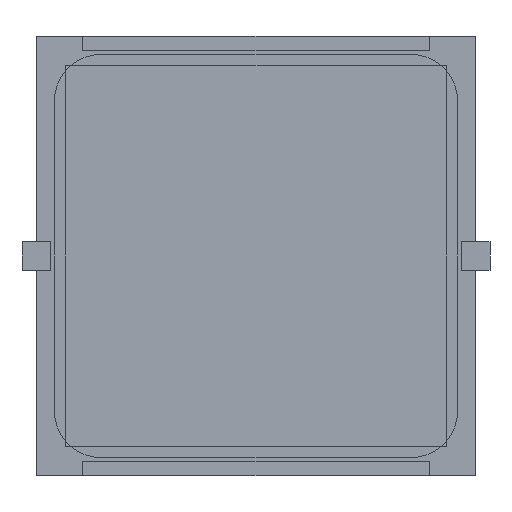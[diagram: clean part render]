
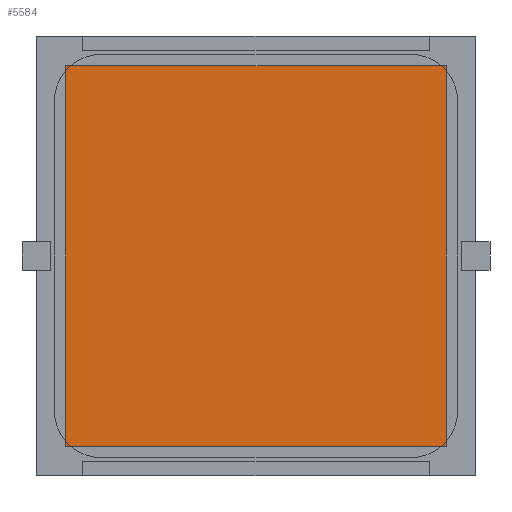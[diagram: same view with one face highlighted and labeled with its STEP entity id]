
A CAD part, front view. The second image highlights one B-rep face of the part: STEP entity #5584.
In plain terms, the highlighted planar face has unit normal (0, -1, 0).
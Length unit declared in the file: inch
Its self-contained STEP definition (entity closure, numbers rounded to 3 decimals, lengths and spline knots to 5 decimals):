
#35 = DIRECTION ( 'NONE',  ( 1., 0., 0. ) ) ;
#125 = VECTOR ( 'NONE', #2898, 39.37008 ) ;
#307 = EDGE_LOOP ( 'NONE', ( #2486, #3412, #6439, #4190 ) ) ;
#604 = VERTEX_POINT ( 'NONE', #1501 ) ;
#856 = VECTOR ( 'NONE', #35, 39.37008 ) ;
#996 = LINE ( 'NONE', #6887, #125 ) ;
#1288 = DIRECTION ( 'NONE',  ( 0., 0., -1. ) ) ;
#1452 = AXIS2_PLACEMENT_3D ( 'NONE', #3349, #5856, #3389 ) ;
#1501 = CARTESIAN_POINT ( 'NONE',  ( 0.5315, -0.005, -0.5315 ) ) ;
#1857 = LINE ( 'NONE', #3545, #5459 ) ;
#2027 = PLANE ( 'NONE',  #1452 ) ;
#2103 = VERTEX_POINT ( 'NONE', #6028 ) ;
#2184 = CARTESIAN_POINT ( 'NONE',  ( -0.5315, -0.005, -0.5315 ) ) ;
#2486 = ORIENTED_EDGE ( 'NONE', *, *, #7265, .T. ) ;
#2898 = DIRECTION ( 'NONE',  ( -1., 0., 0. ) ) ;
#2968 = DIRECTION ( 'NONE',  ( 0., 0., 1. ) ) ;
#3164 = CARTESIAN_POINT ( 'NONE',  ( -0.5315, -0.005, -0.5315 ) ) ;
#3171 = FACE_OUTER_BOUND ( 'NONE', #307, .T. ) ;
#3349 = CARTESIAN_POINT ( 'NONE',  ( 0.5315, -0.005, 0.5315 ) ) ;
#3389 = DIRECTION ( 'NONE',  ( 0., 0., 1. ) ) ;
#3412 = ORIENTED_EDGE ( 'NONE', *, *, #4871, .T. ) ;
#3492 = EDGE_CURVE ( 'NONE', #5824, #604, #7082, .T. ) ;
#3545 = CARTESIAN_POINT ( 'NONE',  ( 0.5315, -0.005, -0.5315 ) ) ;
#4054 = VERTEX_POINT ( 'NONE', #4387 ) ;
#4090 = CARTESIAN_POINT ( 'NONE',  ( 0.5315, -0.005, -0.5315 ) ) ;
#4190 = ORIENTED_EDGE ( 'NONE', *, *, #3492, .T. ) ;
#4387 = CARTESIAN_POINT ( 'NONE',  ( -0.5315, -0.005, 0.5315 ) ) ;
#4871 = EDGE_CURVE ( 'NONE', #2103, #4054, #996, .T. ) ;
#5155 = LINE ( 'NONE', #2184, #6671 ) ;
#5459 = VECTOR ( 'NONE', #2968, 39.37008 ) ;
#5584 = ADVANCED_FACE ( 'NONE', ( #3171 ), #2027, .T. ) ;
#5824 = VERTEX_POINT ( 'NONE', #3164 ) ;
#5856 = DIRECTION ( 'NONE',  ( 0., -1., 0. ) ) ;
#6028 = CARTESIAN_POINT ( 'NONE',  ( 0.5315, -0.005, 0.5315 ) ) ;
#6303 = EDGE_CURVE ( 'NONE', #4054, #5824, #5155, .T. ) ;
#6439 = ORIENTED_EDGE ( 'NONE', *, *, #6303, .T. ) ;
#6671 = VECTOR ( 'NONE', #1288, 39.37008 ) ;
#6887 = CARTESIAN_POINT ( 'NONE',  ( 0.5315, -0.005, 0.5315 ) ) ;
#7082 = LINE ( 'NONE', #4090, #856 ) ;
#7265 = EDGE_CURVE ( 'NONE', #604, #2103, #1857, .T. ) ;
